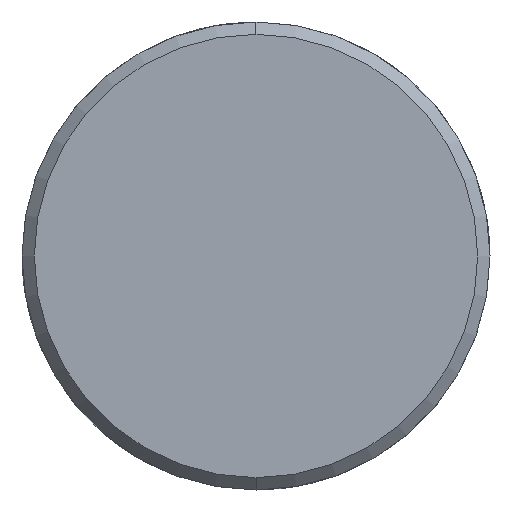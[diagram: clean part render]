
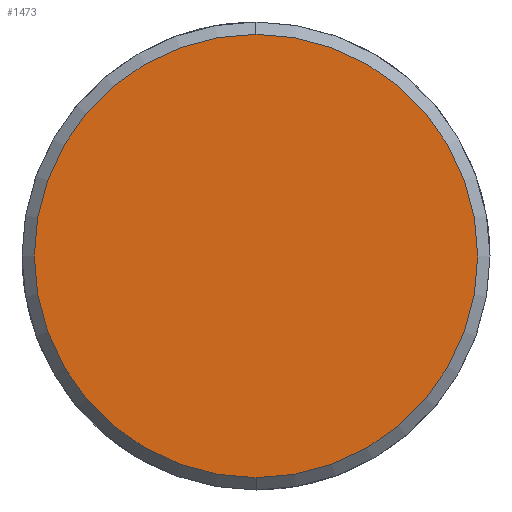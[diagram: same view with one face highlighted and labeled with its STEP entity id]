
A CAD part, left-side view. The second image highlights one B-rep face of the part: STEP entity #1473.
In plain terms, the highlighted planar face has unit normal (-1, 0, 0).
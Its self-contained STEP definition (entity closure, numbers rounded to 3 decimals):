
#1405=CARTESIAN_POINT('Vertex',(-7.,0.,-18.)) ;
#1408=CARTESIAN_POINT('Axis2P3D Location',(-7.,0.,0.)) ;
#1412=CARTESIAN_POINT('Vertex',(-7.,18.,0.)) ;
#1415=CARTESIAN_POINT('Axis2P3D Location',(-7.,0.,0.)) ;
#1419=CARTESIAN_POINT('Vertex',(-7.,0.,18.)) ;
#1441=CARTESIAN_POINT('Axis2P3D Location',(-7.,0.,0.)) ;
#1445=CARTESIAN_POINT('Vertex',(-7.,-18.,0.)) ;
#1448=CARTESIAN_POINT('Axis2P3D Location',(-7.,0.,0.)) ;
#1462=CARTESIAN_POINT('Axis2P3D Location',(-7.,0.,0.)) ;
#1409=DIRECTION('Axis2P3D Direction',(1.,0.,-0.)) ;
#1416=DIRECTION('Axis2P3D Direction',(1.,0.,-0.)) ;
#1442=DIRECTION('Axis2P3D Direction',(1.,0.,-0.)) ;
#1449=DIRECTION('Axis2P3D Direction',(1.,0.,-0.)) ;
#1463=DIRECTION('Axis2P3D Direction',(1.,0.,-0.)) ;
#1464=DIRECTION('Axis2P3D XDirection',(-0.,0.,-1.)) ;
#1410=AXIS2_PLACEMENT_3D('Circle Axis2P3D',#1408,#1409,$) ;
#1417=AXIS2_PLACEMENT_3D('Circle Axis2P3D',#1415,#1416,$) ;
#1443=AXIS2_PLACEMENT_3D('Circle Axis2P3D',#1441,#1442,$) ;
#1450=AXIS2_PLACEMENT_3D('Circle Axis2P3D',#1448,#1449,$) ;
#1465=AXIS2_PLACEMENT_3D('Plane Axis2P3D',#1462,#1463,#1464) ;
#1468=ORIENTED_EDGE('',*,*,#1414,.F.) ;
#1469=ORIENTED_EDGE('',*,*,#1452,.F.) ;
#1470=ORIENTED_EDGE('',*,*,#1447,.F.) ;
#1471=ORIENTED_EDGE('',*,*,#1421,.F.) ;
#1473=ADVANCED_FACE('351-25X86X260',(#1472),#1466,.F.) ;
#1411=CIRCLE('generated circle',#1410,18.) ;
#1418=CIRCLE('generated circle',#1417,18.) ;
#1444=CIRCLE('generated circle',#1443,18.) ;
#1451=CIRCLE('generated circle',#1450,18.) ;
#1414=EDGE_CURVE('',#1406,#1413,#1411,.T.) ;
#1421=EDGE_CURVE('',#1413,#1420,#1418,.T.) ;
#1447=EDGE_CURVE('',#1420,#1446,#1444,.T.) ;
#1452=EDGE_CURVE('',#1446,#1406,#1451,.T.) ;
#1467=EDGE_LOOP('',(#1468,#1469,#1470,#1471)) ;
#1472=FACE_OUTER_BOUND('',#1467,.T.) ;
#1466=PLANE('Plane',#1465) ;
#1406=VERTEX_POINT('',#1405) ;
#1413=VERTEX_POINT('',#1412) ;
#1420=VERTEX_POINT('',#1419) ;
#1446=VERTEX_POINT('',#1445) ;
